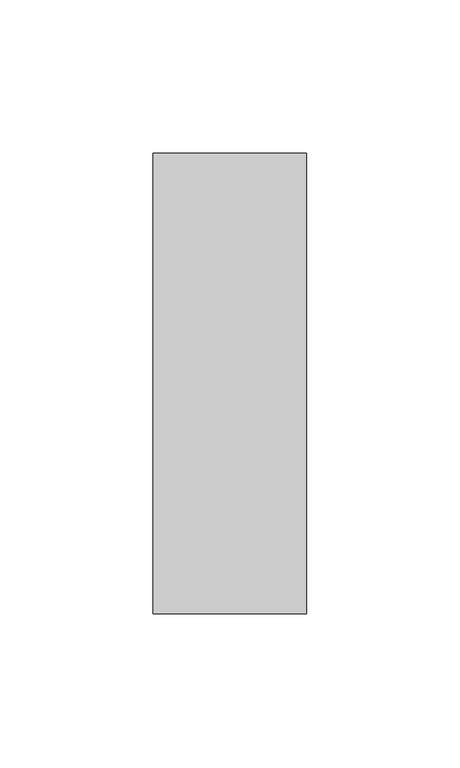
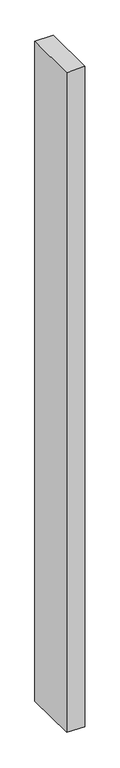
"""IFC4 building model written with IfcOpenShell, lengths in millimetres: member geometry, Прямоугольный импост : 50 x 150 мм."""

from ifc_helpers import new_model, si_unit, origin, place, context, project, spatial, faceted_brep, source, transform, mapped, element, save


def member_7bf78909(model_context):
    return source(origin(), model_context, "Body", "Brep", [
        faceted_brep([(-25.0, 75.0, -0.560907), (25.0, 75.0, 0.2033752), (25.0, 75.0, -1908.8688773), (-25.0, 75.0, -1908.1715288), (-25.0, -75.0, -0.2033752), (-25.0, -75.0, -1907.0437055), (25.0, -75.0, 0.560907), (25.0, -75.0, -1907.7410539)], [[[0, 1, 2, 3]], [[4, 0, 3, 5]], [[6, 4, 5, 7]], [[1, 6, 7, 2]], [[1, 0, 4, 6]], [[2, 7, 5, 3]]]),
    ])


if __name__ == "__main__":
    model = new_model("IFC4")
    model_context = context("Model", 3, world=origin())
    ifc_project = project(units=[si_unit("LENGTHUNIT", "METRE", prefix="MILLI")], contexts=[model_context])
    site = spatial("IfcSite", under=ifc_project)
    building = spatial("IfcBuilding", under=site)
    placement = place(None, origin())
    member_shape = member_7bf78909(model_context)
    element("IfcMember", 1, ObjectType="Прямоугольный импост : 50 x 150 мм", at=placement, inside=building, context=model_context, shape_type="MappedRepresentation", body=[
        mapped(member_shape, transform((0.0, 0.0, 0.0), x_axis=(1.0, 0.0, 0.0), y_axis=(0.0, 1.0, 0.0), z_axis=(0.0, 0.0, 1.0))),
    ])
    save(model, "model.ifc")
